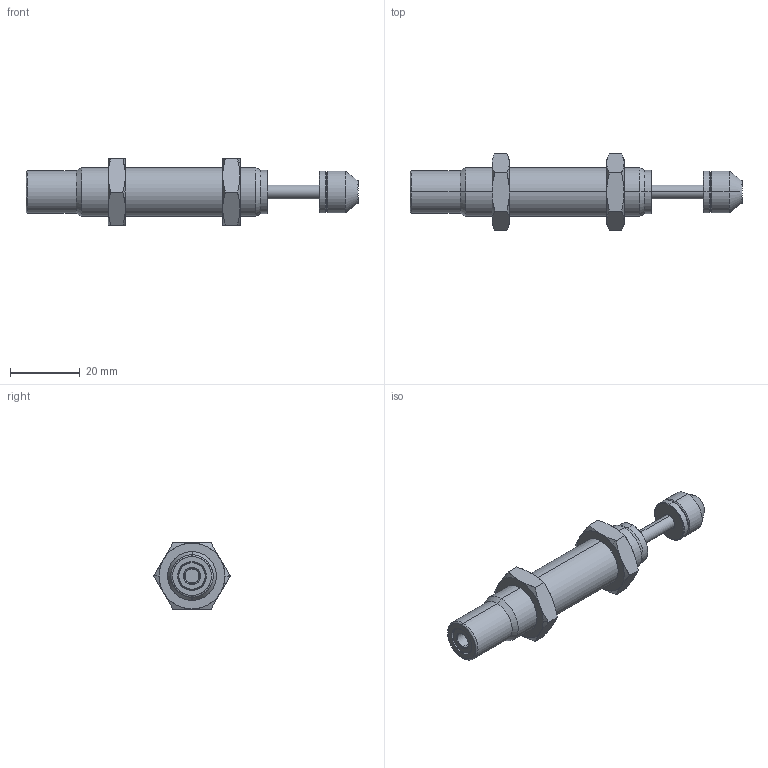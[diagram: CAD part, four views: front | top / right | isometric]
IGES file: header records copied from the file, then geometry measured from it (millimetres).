
Start section: SolidWorks IGES file using analytic representation for surfaces
Global section: file name: D:\IGS跡宒\-K\AC1415-7K(P1.0).IGS, ; native system: SolidWorks 2013; preprocessor: SolidWorks 2013; author: Administrator; date: 160411.095538; units: inch
Bounding box: 95.45 x 21.94 x 19 mm (x, y, z)
Surface area: 6064.8 mm2 (no closed solid volume)
Topology: 0 solids, 0 shells, 91 faces, 1432 edges, 1432 vertices
Faces by surface type: revolution 64, bspline 27
